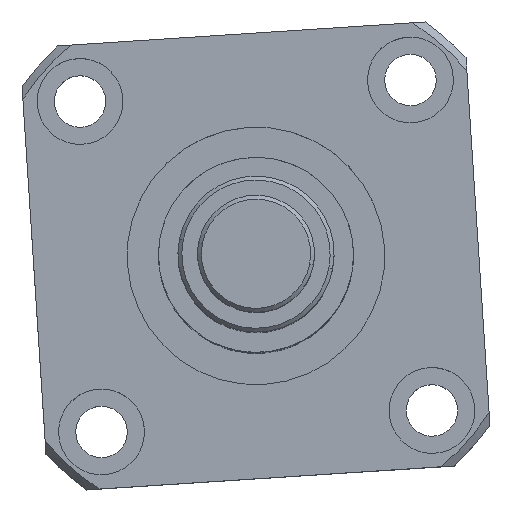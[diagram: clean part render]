
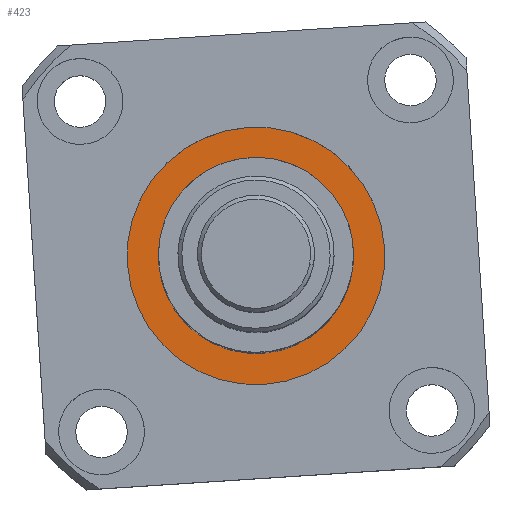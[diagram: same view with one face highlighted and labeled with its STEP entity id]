
A CAD part, top view. The second image highlights one B-rep face of the part: STEP entity #423.
In plain terms, the highlighted planar face has unit normal (0, 0, 1).
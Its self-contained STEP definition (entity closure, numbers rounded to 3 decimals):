
#43 = EDGE_CURVE ( 'NONE', #205, #2028, #46, .T. ) ;
#46 = CIRCLE ( 'NONE', #2740, 16.5 ) ;
#77 = DIRECTION ( 'NONE',  ( 1., 0., 0. ) ) ;
#182 = DIRECTION ( 'NONE',  ( 1., 0., 0. ) ) ;
#205 = VERTEX_POINT ( 'NONE', #1451 ) ;
#332 = DIRECTION ( 'NONE',  ( 0., 0., 1. ) ) ;
#423 = ADVANCED_FACE ( 'NONE', ( #1266, #1972 ), #746, .T. ) ;
#514 = CARTESIAN_POINT ( 'NONE',  ( -12.5, 0., -6. ) ) ;
#746 = PLANE ( 'NONE',  #2279 ) ;
#855 = VERTEX_POINT ( 'NONE', #3165 ) ;
#1070 = CIRCLE ( 'NONE', #1837, 12.5 ) ;
#1074 = ORIENTED_EDGE ( 'NONE', *, *, #2073, .T. ) ;
#1217 = VERTEX_POINT ( 'NONE', #514 ) ;
#1266 = FACE_OUTER_BOUND ( 'NONE', #1624, .T. ) ;
#1289 = CARTESIAN_POINT ( 'NONE',  ( 0., 0., -6. ) ) ;
#1380 = AXIS2_PLACEMENT_3D ( 'NONE', #3074, #1488, #3330 ) ;
#1451 = CARTESIAN_POINT ( 'NONE',  ( 16.5, 0., -6. ) ) ;
#1488 = DIRECTION ( 'NONE',  ( 0., 0., -1. ) ) ;
#1624 = EDGE_LOOP ( 'NONE', ( #2407, #1074 ) ) ;
#1719 = DIRECTION ( 'NONE',  ( 0., 0., -1. ) ) ;
#1722 = CIRCLE ( 'NONE', #2726, 16.5 ) ;
#1726 = DIRECTION ( 'NONE',  ( 0., 0., 1. ) ) ;
#1773 = ORIENTED_EDGE ( 'NONE', *, *, #2340, .T. ) ;
#1826 = DIRECTION ( 'NONE',  ( 0., 0., 1. ) ) ;
#1837 = AXIS2_PLACEMENT_3D ( 'NONE', #3299, #1719, #77 ) ;
#1966 = CARTESIAN_POINT ( 'NONE',  ( 0., 0., -6. ) ) ;
#1972 = FACE_BOUND ( 'NONE', #2174, .T. ) ;
#2028 = VERTEX_POINT ( 'NONE', #3239 ) ;
#2073 = EDGE_CURVE ( 'NONE', #2028, #205, #1722, .T. ) ;
#2174 = EDGE_LOOP ( 'NONE', ( #1773, #2480 ) ) ;
#2225 = CIRCLE ( 'NONE', #1380, 12.5 ) ;
#2237 = DIRECTION ( 'NONE',  ( 1., 0., 0. ) ) ;
#2279 = AXIS2_PLACEMENT_3D ( 'NONE', #1289, #1826, #182 ) ;
#2340 = EDGE_CURVE ( 'NONE', #1217, #855, #1070, .T. ) ;
#2407 = ORIENTED_EDGE ( 'NONE', *, *, #43, .T. ) ;
#2425 = EDGE_CURVE ( 'NONE', #855, #1217, #2225, .T. ) ;
#2480 = ORIENTED_EDGE ( 'NONE', *, *, #2425, .T. ) ;
#2552 = CARTESIAN_POINT ( 'NONE',  ( 0., 0., -6. ) ) ;
#2726 = AXIS2_PLACEMENT_3D ( 'NONE', #1966, #332, #2237 ) ;
#2740 = AXIS2_PLACEMENT_3D ( 'NONE', #2552, #1726, #2817 ) ;
#2817 = DIRECTION ( 'NONE',  ( 1., 0., 0. ) ) ;
#3074 = CARTESIAN_POINT ( 'NONE',  ( 0., 0., -6. ) ) ;
#3165 = CARTESIAN_POINT ( 'NONE',  ( 12.5, 0., -6. ) ) ;
#3239 = CARTESIAN_POINT ( 'NONE',  ( -16.5, 0., -6. ) ) ;
#3299 = CARTESIAN_POINT ( 'NONE',  ( 0., 0., -6. ) ) ;
#3330 = DIRECTION ( 'NONE',  ( 1., 0., 0. ) ) ;
